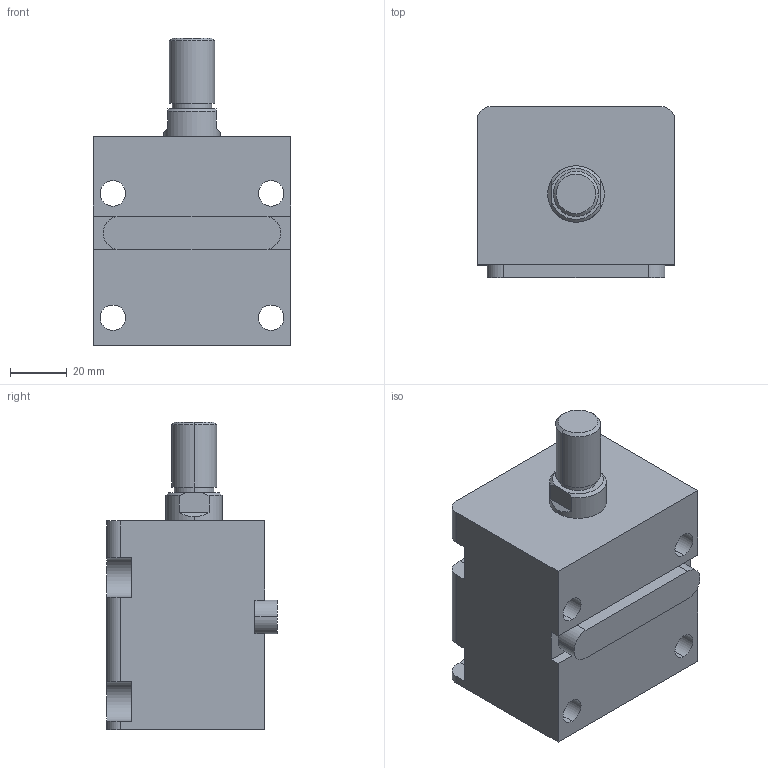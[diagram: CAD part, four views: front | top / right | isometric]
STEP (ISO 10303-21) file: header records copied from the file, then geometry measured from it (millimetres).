
FILE_DESCRIPTION (( 'STEP AP203' ), '1' );
FILE_NAME ('HTB-LA32-20W.STEP', '2019-10-09T06:25:58', ( '微软用户' ), ( '微软中国' ), 'SwSTEP 2.0', 'SolidWorks 2012', '' );
FILE_SCHEMA (( 'CONFIG_CONTROL_DESIGN' ));
Length unit declared in the file: millimetre
Products named in the file (4): HTB-LA32-20掛极; HTB-LA32-20W活塞杆; HTB-LA32-瑩; HTB-LA32-20W
Assembly tree (3 placements, depth 2):
  HTB-LA32-20W
    HTB-LA32-20掛极
    HTB-LA32-20W活塞杆
    HTB-LA32-瑩
Bounding box: 70 x 60.5 x 109 mm (x, y, z)
Volume: 270245.4 mm3; surface area: 50035.3 mm2
Topology: 3 solids, 3 shells, 92 faces, 223 edges, 146 vertices
Faces by surface type: plane 41, cylinder 37, cone 8, torus 6
Entity records: 3159 total; most frequent: DIRECTION 509, CARTESIAN_POINT 495, ORIENTED_EDGE 446, EDGE_CURVE 223, AXIS2_PLACEMENT_3D 196, VERTEX_POINT 146, LINE 117, VECTOR 117
